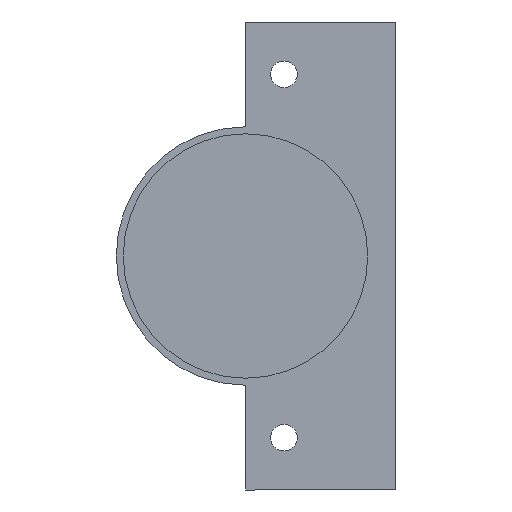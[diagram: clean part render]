
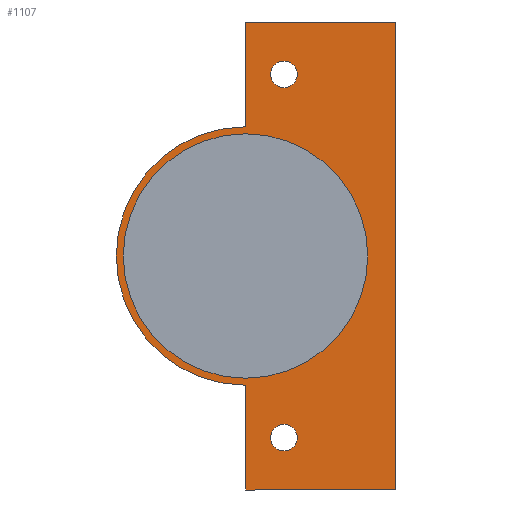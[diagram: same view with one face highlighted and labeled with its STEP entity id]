
A CAD part, front view. The second image highlights one B-rep face of the part: STEP entity #1107.
In plain terms, the highlighted planar face has unit normal (0, -1, 0).
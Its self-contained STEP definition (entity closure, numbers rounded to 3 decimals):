
#41 = VECTOR ( 'NONE', #46, 1000. ) ;
#46 = DIRECTION ( 'NONE',  ( 1., 0., 0. ) ) ;
#68 = CARTESIAN_POINT ( 'NONE',  ( 5.5, -38.5, 33.5 ) ) ;
#72 = DIRECTION ( 'NONE',  ( 0., 1., 0. ) ) ;
#93 = DIRECTION ( 'NONE',  ( -1., 0., 0. ) ) ;
#94 = ORIENTED_EDGE ( 'NONE', *, *, #658, .F. ) ;
#116 = CARTESIAN_POINT ( 'NONE',  ( 5.5, -38.5, 0. ) ) ;
#133 = DIRECTION ( 'NONE',  ( 0., 0., -1. ) ) ;
#154 = VERTEX_POINT ( 'NONE', #486 ) ;
#165 = AXIS2_PLACEMENT_3D ( 'NONE', #909, #893, #889 ) ;
#184 = CARTESIAN_POINT ( 'NONE',  ( 9.1, -38.5, 26. ) ) ;
#206 = DIRECTION ( 'NONE',  ( -1., 0., 0. ) ) ;
#215 = CARTESIAN_POINT ( 'NONE',  ( 5.5, -38.5, 33.5 ) ) ;
#216 = ORIENTED_EDGE ( 'NONE', *, *, #422, .F. ) ;
#223 = CIRCLE ( 'NONE', #552, 18.5 ) ;
#235 = AXIS2_PLACEMENT_3D ( 'NONE', #1201, #1166, #1168 ) ;
#242 = ORIENTED_EDGE ( 'NONE', *, *, #637, .T. ) ;
#249 = CIRCLE ( 'NONE', #500, 1.9 ) ;
#257 = DIRECTION ( 'NONE',  ( -1., 0., 0. ) ) ;
#260 = EDGE_CURVE ( 'NONE', #1083, #1281, #1452, .T. ) ;
#278 = ORIENTED_EDGE ( 'NONE', *, *, #1094, .F. ) ;
#279 = DIRECTION ( 'NONE',  ( 0., 1., 0. ) ) ;
#285 = CARTESIAN_POINT ( 'NONE',  ( 11., -38.5, 26. ) ) ;
#322 = EDGE_CURVE ( 'NONE', #516, #896, #648, .T. ) ;
#325 = FACE_OUTER_BOUND ( 'NONE', #394, .T. ) ;
#326 = VERTEX_POINT ( 'NONE', #1328 ) ;
#336 = CARTESIAN_POINT ( 'NONE',  ( 27., -38.5, -33.5 ) ) ;
#385 = ORIENTED_EDGE ( 'NONE', *, *, #758, .T. ) ;
#394 = EDGE_LOOP ( 'NONE', ( #278, #962, #1431, #94, #518, #216 ) ) ;
#408 = EDGE_CURVE ( 'NONE', #1259, #796, #1349, .T. ) ;
#417 = CARTESIAN_POINT ( 'NONE',  ( 27., -38.5, 33.5 ) ) ;
#422 = EDGE_CURVE ( 'NONE', #326, #154, #1134, .T. ) ;
#440 = CARTESIAN_POINT ( 'NONE',  ( 27., -38.5, 33.5 ) ) ;
#449 = EDGE_LOOP ( 'NONE', ( #600, #242 ) ) ;
#454 = CARTESIAN_POINT ( 'NONE',  ( 27., -38.5, -33.5 ) ) ;
#486 = CARTESIAN_POINT ( 'NONE',  ( 5.5, -38.5, -18.5 ) ) ;
#494 = EDGE_LOOP ( 'NONE', ( #971, #1368 ) ) ;
#497 = LINE ( 'NONE', #440, #752 ) ;
#500 = AXIS2_PLACEMENT_3D ( 'NONE', #722, #745, #633 ) ;
#514 = CARTESIAN_POINT ( 'NONE',  ( 5.5, -38.5, 0. ) ) ;
#516 = VERTEX_POINT ( 'NONE', #1137 ) ;
#518 = ORIENTED_EDGE ( 'NONE', *, *, #826, .F. ) ;
#532 = DIRECTION ( 'NONE',  ( 0., 0., 1. ) ) ;
#538 = VERTEX_POINT ( 'NONE', #1285 ) ;
#552 = AXIS2_PLACEMENT_3D ( 'NONE', #116, #852, #93 ) ;
#600 = ORIENTED_EDGE ( 'NONE', *, *, #322, .T. ) ;
#633 = DIRECTION ( 'NONE',  ( -1., 0., 0. ) ) ;
#637 = EDGE_CURVE ( 'NONE', #896, #516, #249, .T. ) ;
#644 = FACE_BOUND ( 'NONE', #449, .T. ) ;
#648 = CIRCLE ( 'NONE', #1376, 1.9 ) ;
#658 = EDGE_CURVE ( 'NONE', #538, #1171, #1116, .T. ) ;
#661 = CARTESIAN_POINT ( 'NONE',  ( 5.5, -38.5, 18.5 ) ) ;
#710 = CARTESIAN_POINT ( 'NONE',  ( 12.9, -38.5, -26. ) ) ;
#722 = CARTESIAN_POINT ( 'NONE',  ( 11., -38.5, -26. ) ) ;
#745 = DIRECTION ( 'NONE',  ( 0., 1., 0. ) ) ;
#752 = VECTOR ( 'NONE', #133, 1000. ) ;
#758 = EDGE_CURVE ( 'NONE', #796, #1259, #1253, .T. ) ;
#791 = DIRECTION ( 'NONE',  ( -1., 0., 0. ) ) ;
#796 = VERTEX_POINT ( 'NONE', #184 ) ;
#803 = VECTOR ( 'NONE', #1229, 1000. ) ;
#826 = EDGE_CURVE ( 'NONE', #154, #538, #223, .T. ) ;
#852 = DIRECTION ( 'NONE',  ( 0., 1., 0. ) ) ;
#861 = VECTOR ( 'NONE', #532, 1000. ) ;
#864 = DIRECTION ( 'NONE',  ( -1., 0., 0. ) ) ;
#868 = EDGE_CURVE ( 'NONE', #1281, #1083, #1100, .T. ) ;
#880 = CARTESIAN_POINT ( 'NONE',  ( 23., -38.5, 0. ) ) ;
#889 = DIRECTION ( 'NONE',  ( -1., 0., 0. ) ) ;
#893 = DIRECTION ( 'NONE',  ( 0., -1., 0. ) ) ;
#896 = VERTEX_POINT ( 'NONE', #710 ) ;
#907 = AXIS2_PLACEMENT_3D ( 'NONE', #514, #72, #864 ) ;
#909 = CARTESIAN_POINT ( 'NONE',  ( 5.5, -38.5, 0. ) ) ;
#939 = CARTESIAN_POINT ( 'NONE',  ( 5.5, -38.5, 0. ) ) ;
#942 = AXIS2_PLACEMENT_3D ( 'NONE', #939, #965, #979 ) ;
#962 = ORIENTED_EDGE ( 'NONE', *, *, #1400, .F. ) ;
#965 = DIRECTION ( 'NONE',  ( 0., -1., 0. ) ) ;
#970 = CARTESIAN_POINT ( 'NONE',  ( 11., -38.5, -26. ) ) ;
#971 = ORIENTED_EDGE ( 'NONE', *, *, #868, .F. ) ;
#979 = DIRECTION ( 'NONE',  ( -1., 0., 0. ) ) ;
#982 = DIRECTION ( 'NONE',  ( 0., 1., 0. ) ) ;
#993 = CARTESIAN_POINT ( 'NONE',  ( -12., -38.5, 0. ) ) ;
#1031 = PLANE ( 'NONE',  #907 ) ;
#1080 = EDGE_LOOP ( 'NONE', ( #385, #1294 ) ) ;
#1081 = CARTESIAN_POINT ( 'NONE',  ( 12.9, -38.5, 26. ) ) ;
#1083 = VERTEX_POINT ( 'NONE', #880 ) ;
#1094 = EDGE_CURVE ( 'NONE', #1172, #326, #1424, .T. ) ;
#1100 = CIRCLE ( 'NONE', #165, 17.5 ) ;
#1107 = ADVANCED_FACE ( 'NONE', ( #644, #1160, #325, #1397 ), #1031, .F. ) ;
#1116 = LINE ( 'NONE', #661, #861 ) ;
#1123 = CARTESIAN_POINT ( 'NONE',  ( 5.5, -38.5, -33.5 ) ) ;
#1134 = LINE ( 'NONE', #1123, #803 ) ;
#1137 = CARTESIAN_POINT ( 'NONE',  ( 9.1, -38.5, -26. ) ) ;
#1160 = FACE_BOUND ( 'NONE', #1080, .T. ) ;
#1166 = DIRECTION ( 'NONE',  ( 0., 1., 0. ) ) ;
#1168 = DIRECTION ( 'NONE',  ( -1., 0., 0. ) ) ;
#1171 = VERTEX_POINT ( 'NONE', #215 ) ;
#1172 = VERTEX_POINT ( 'NONE', #336 ) ;
#1188 = VECTOR ( 'NONE', #206, 1000. ) ;
#1201 = CARTESIAN_POINT ( 'NONE',  ( 11., -38.5, 26. ) ) ;
#1226 = VERTEX_POINT ( 'NONE', #417 ) ;
#1229 = DIRECTION ( 'NONE',  ( 0., 0., 1. ) ) ;
#1242 = EDGE_CURVE ( 'NONE', #1171, #1226, #1262, .T. ) ;
#1253 = CIRCLE ( 'NONE', #1389, 1.9 ) ;
#1259 = VERTEX_POINT ( 'NONE', #1081 ) ;
#1262 = LINE ( 'NONE', #68, #41 ) ;
#1281 = VERTEX_POINT ( 'NONE', #993 ) ;
#1285 = CARTESIAN_POINT ( 'NONE',  ( 5.5, -38.5, 18.5 ) ) ;
#1294 = ORIENTED_EDGE ( 'NONE', *, *, #408, .T. ) ;
#1328 = CARTESIAN_POINT ( 'NONE',  ( 5.5, -38.5, -33.5 ) ) ;
#1349 = CIRCLE ( 'NONE', #235, 1.9 ) ;
#1368 = ORIENTED_EDGE ( 'NONE', *, *, #260, .F. ) ;
#1376 = AXIS2_PLACEMENT_3D ( 'NONE', #970, #982, #791 ) ;
#1389 = AXIS2_PLACEMENT_3D ( 'NONE', #285, #279, #257 ) ;
#1397 = FACE_BOUND ( 'NONE', #494, .T. ) ;
#1400 = EDGE_CURVE ( 'NONE', #1226, #1172, #497, .T. ) ;
#1424 = LINE ( 'NONE', #454, #1188 ) ;
#1431 = ORIENTED_EDGE ( 'NONE', *, *, #1242, .F. ) ;
#1452 = CIRCLE ( 'NONE', #942, 17.5 ) ;
